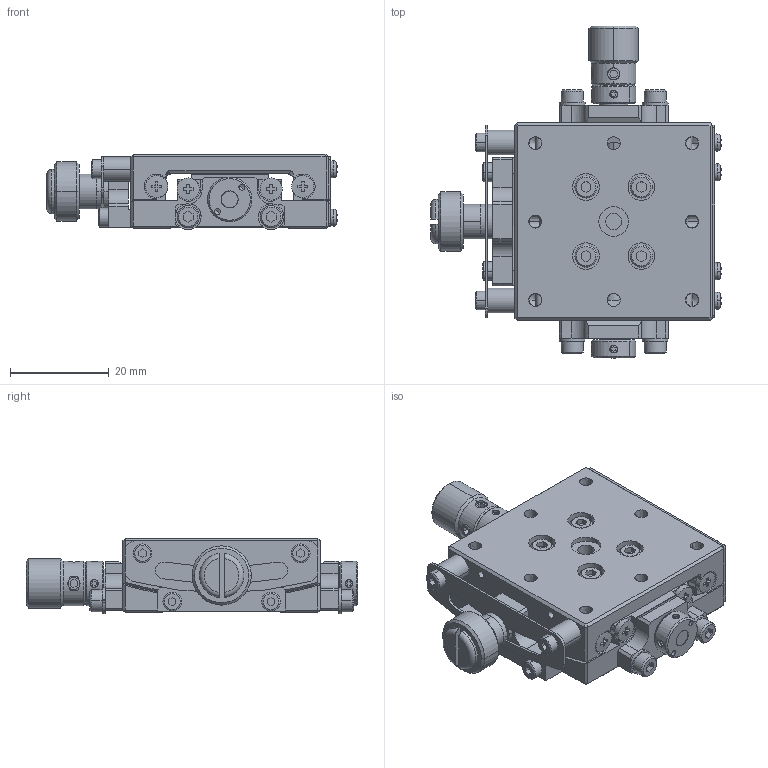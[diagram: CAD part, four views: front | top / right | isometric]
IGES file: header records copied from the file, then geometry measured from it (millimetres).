
Global section: file name: No Iges File Name specified; native system: AutoDesk Inventor R12.0; preprocessor: AutoDesk Inventor Iges Exporter R12.0; date: 20140115.190659; units: millimetre
Bounding box: 58.74 x 67.2 x 15.21 mm (x, y, z)
Volume: 23378.3 mm3; surface area: 18025 mm2
Topology: 43 solids, 62 shells, 1437 faces, 3613 edges, 2250 vertices
Faces by surface type: plane 615, bspline 324, cylinder 202, cone 120, revolution 114, sphere 52, torus 10
